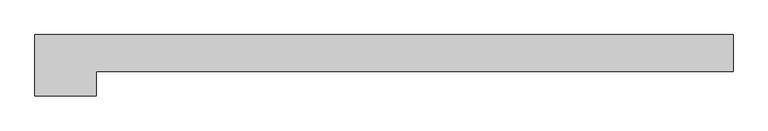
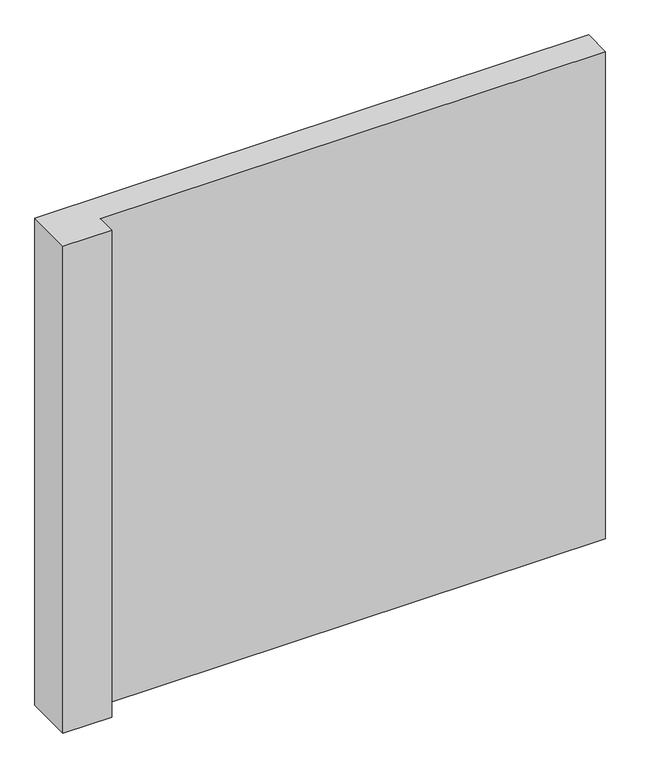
"""IFC4 building model written with IfcOpenShell, lengths in millimetres: column geometry, Columna Estructural Ele : ECO_Ele 25x285x25."""

from ifc_helpers import new_model, si_unit, frame, origin, place, context, project, spatial, polyline, outline, extrude, source, transform, mapped, element, save


def column_a5854c5e(model_context):
    return source(origin(), model_context, "Body", "SweptSolid", [
        extrude(outline(polyline([(125.0, -175.0), (-125.0, -175.0), (-125.0, 75.0), (2725.0, 75.0), (2725.0, -75.0), (125.0, -75.0), (125.0, -175.0)])), frame((0.0, 0.0, 2750.0), z_axis=(0.0, 0.0, 1.0), x_axis=(1.0, 0.0, 0.0)), (0.0, 0.0, 1.0), 2650.0),
    ])


if __name__ == "__main__":
    model = new_model("IFC4")
    model_context = context("Model", 3, world=origin())
    ifc_project = project(units=[si_unit("LENGTHUNIT", "METRE", prefix="MILLI")], contexts=[model_context])
    site = spatial("IfcSite", under=ifc_project)
    building = spatial("IfcBuilding", under=site)
    placement = place(None, origin())
    column_shape = column_a5854c5e(model_context)
    element("IfcColumn", 1, ObjectType="Columna Estructural Ele : ECO_Ele 25x285x25", at=placement, inside=building, context=model_context, shape_type="MappedRepresentation", body=[
        mapped(column_shape, transform((0.0, 0.0, 0.0), x_axis=(1.0, 0.0, 0.0), y_axis=(0.0, 1.0, 0.0), z_axis=(0.0, 0.0, 1.0))),
    ])
    save(model, "model.ifc")
